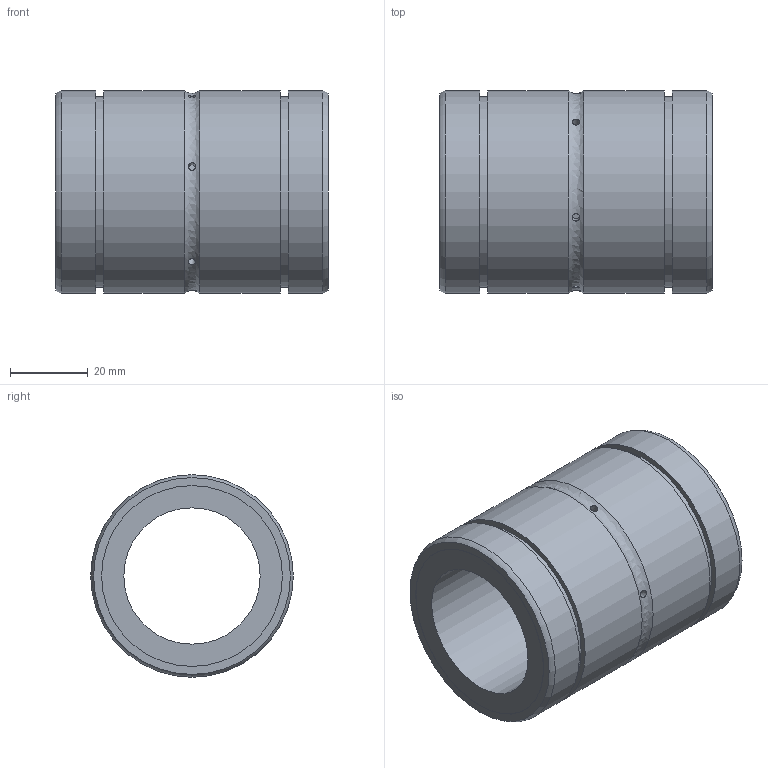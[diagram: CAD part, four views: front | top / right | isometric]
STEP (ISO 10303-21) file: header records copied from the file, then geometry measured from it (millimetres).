
FILE_DESCRIPTION((''),'2;1');
FILE_NAME('D:\製品 (図面)\カタログ用3D\リニアベアリング関連\STEP形式\L-OH\L35-OH.stp','2010-06-04T09:31:32',('Tsuchiya'),(''),'Autodesk Inventor 10','Autodesk Inventor 10','');
FILE_SCHEMA(('AUTOMOTIVE_DESIGN { 1 0 10303 214 1 1 1 1 }'));
Length unit declared in the file: millimetre
Products named in the file (1): L35-OH
Bounding box: 70 x 52 x 52 mm (x, y, z)
Volume: 79644.5 mm3; surface area: 22315 mm2
Topology: 1 solids, 1 shells, 32 faces, 56 edges, 38 vertices
Faces by surface type: cylinder 15, plane 8, bspline 7, torus 2
Full cylindrical faces by diameter (mm): 35 x1, 46.4 x2, 49 x2, 52 x4
Entity records: 1337 total; most frequent: CARTESIAN_POINT 827, DIRECTION 92, ORIENTED_EDGE 64, EDGE_LOOP 64, AXIS2_PLACEMENT_3D 46, VERTEX_POINT 32, EDGE_CURVE 32, FACE_OUTER_BOUND 32
